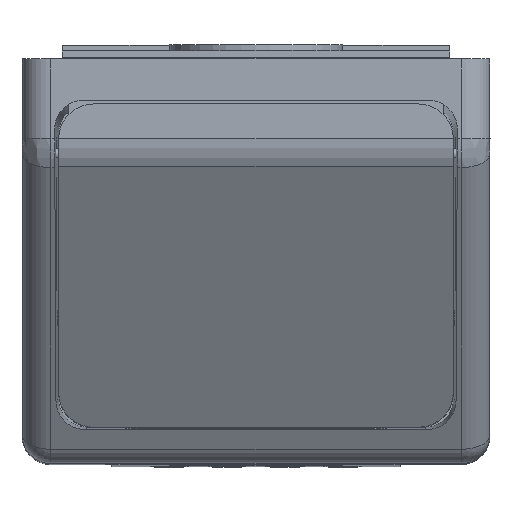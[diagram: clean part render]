
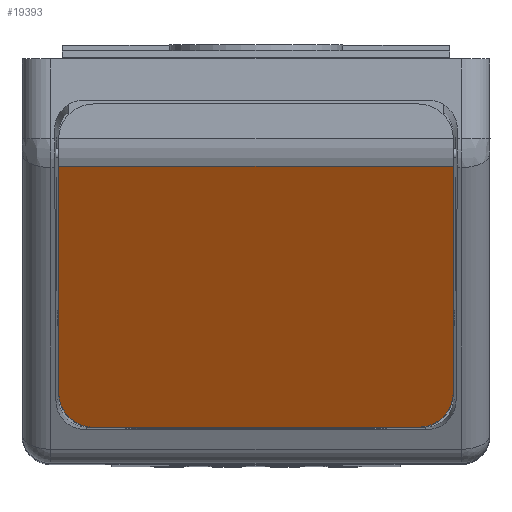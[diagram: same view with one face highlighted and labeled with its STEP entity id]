
A CAD part, top view. The second image highlights one B-rep face of the part: STEP entity #19393.
In plain terms, the highlighted planar face has unit normal (0, -0.5, 0.866).
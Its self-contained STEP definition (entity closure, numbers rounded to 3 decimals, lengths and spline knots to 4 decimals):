
#17105=DIRECTION('',(0.,-0.866,-0.5));
#17106=VECTOR('',#17105,4.5183);
#17107=CARTESIAN_POINT('',(-3.415,2.3679,7.5227));
#17108=LINE('',#17107,#17106);
#17201=CARTESIAN_POINT('',(-3.415,-1.545,5.2636));
#17202=CARTESIAN_POINT('',(-3.415,-1.6383,5.2097));
#17203=CARTESIAN_POINT('',(-3.3761,-1.7912,
5.1214));
#17204=CARTESIAN_POINT('',(-3.2572,-1.9682,
5.0193));
#17205=CARTESIAN_POINT('',(-3.1124,-2.076,
4.957));
#17206=CARTESIAN_POINT('',(-2.9611,-2.1315,
4.9249));
#17207=CARTESIAN_POINT('',(-2.8689,-2.145,4.9172));
#17208=CARTESIAN_POINT('',(-2.815,-2.145,4.9172));
#17220=DIRECTION('',(-1.,0.,0.));
#17221=VECTOR('',#17220,6.83);
#17222=CARTESIAN_POINT('',(3.415,2.3679,7.5227));
#17223=LINE('',#17222,#17221);
#17445=DIRECTION('',(0.,0.866,0.5));
#17446=VECTOR('',#17445,4.5183);
#17447=CARTESIAN_POINT('',(3.415,-1.545,5.2636));
#17448=LINE('',#17447,#17446);
#17556=DIRECTION('',(1.,0.,0.));
#17557=VECTOR('',#17556,5.63);
#17558=CARTESIAN_POINT('',(-2.815,-2.145,4.9172));
#17559=LINE('',#17558,#17557);
#17709=CARTESIAN_POINT('',(2.815,-2.145,4.9172));
#17710=CARTESIAN_POINT('',(2.8689,-2.145,4.9172));
#17711=CARTESIAN_POINT('',(2.9611,-2.1315,
4.9249));
#17712=CARTESIAN_POINT('',(3.1124,-2.076,
4.957));
#17713=CARTESIAN_POINT('',(3.2572,-1.9682,
5.0193));
#17714=CARTESIAN_POINT('',(3.3761,-1.7912,
5.1214));
#17715=CARTESIAN_POINT('',(3.415,-1.6383,5.2097));
#17716=CARTESIAN_POINT('',(3.415,-1.545,5.2636));
#18984=CARTESIAN_POINT('',(-3.415,2.3679,7.5227));
#18985=VERTEX_POINT('',#18984);
#18986=CARTESIAN_POINT('',(-3.415,-1.545,5.2636));
#18987=VERTEX_POINT('',#18986);
#19000=VERTEX_POINT('',#17208);
#19001=CARTESIAN_POINT('',(3.415,2.3679,7.5227));
#19002=VERTEX_POINT('',#19001);
#19003=CARTESIAN_POINT('',(3.415,-1.545,5.2636));
#19004=VERTEX_POINT('',#19003);
#19005=VERTEX_POINT('',#17709);
#19376=CARTESIAN_POINT('',(4.05,2.6,7.6567));
#19377=DIRECTION('',(0.,-0.5,0.866));
#19378=DIRECTION('',(0.,-0.866,-0.5));
#19379=AXIS2_PLACEMENT_3D('',#19376,#19377,#19378);
#19380=PLANE('',#19379);
#19381=ORIENTED_EDGE('',*,*,#19369,.F.);
#19382=ORIENTED_EDGE('',*,*,#19315,.F.);
#19384=ORIENTED_EDGE('',*,*,#19383,.F.);
#19386=ORIENTED_EDGE('',*,*,#19385,.F.);
#19388=ORIENTED_EDGE('',*,*,#19387,.F.);
#19390=ORIENTED_EDGE('',*,*,#19389,.F.);
#19391=EDGE_LOOP('',(#19381,#19382,#19384,#19386,#19388,#19390));
#19392=FACE_OUTER_BOUND('',#19391,.F.);
#17209=B_SPLINE_CURVE_WITH_KNOTS('',3,(#17201,#17202,#17203,#17204,#17205,
#17206,#17207,#17208),.UNSPECIFIED.,.F.,.F.,(4,1,1,1,1,4),(0.,0.25,0.5,
0.75,0.875,1.),.UNSPECIFIED.);
#17717=B_SPLINE_CURVE_WITH_KNOTS('',3,(#17709,#17710,#17711,#17712,#17713,
#17714,#17715,#17716),.UNSPECIFIED.,.F.,.F.,(4,1,1,1,1,4),(0.,0.125,0.25,
0.5,0.75,1.),.UNSPECIFIED.);
#19315=EDGE_CURVE('',#18985,#18987,#17108,.T.);
#19369=EDGE_CURVE('',#18987,#19000,#17209,.T.);
#19383=EDGE_CURVE('',#19002,#18985,#17223,.T.);
#19385=EDGE_CURVE('',#19004,#19002,#17448,.T.);
#19387=EDGE_CURVE('',#19005,#19004,#17717,.T.);
#19389=EDGE_CURVE('',#19000,#19005,#17559,.T.);
#19393=ADVANCED_FACE('',(#19392),#19380,.T.);
